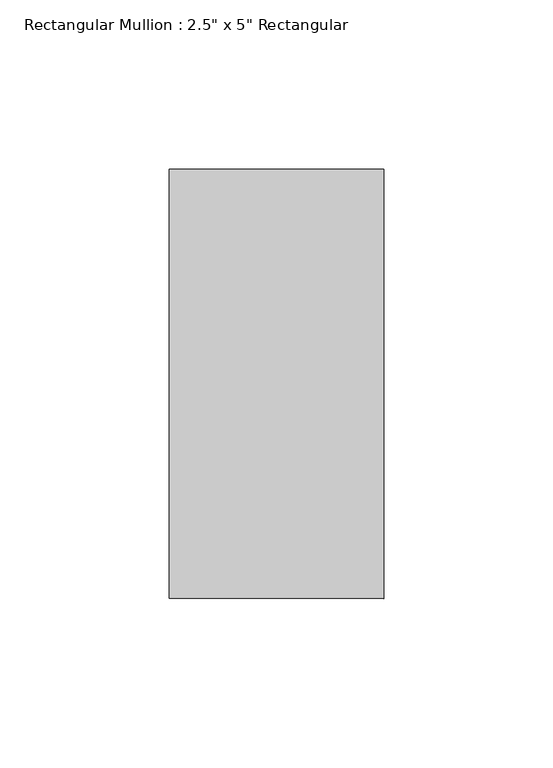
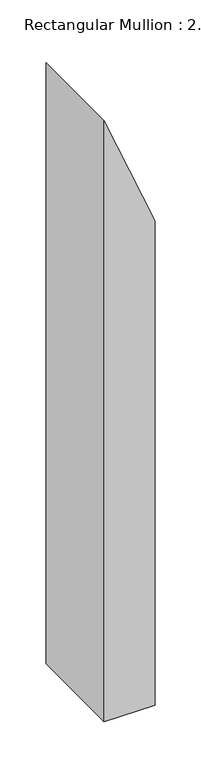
"""IFC4 building model written with IfcOpenShell, lengths in millimetres: member geometry."""

from ifc_helpers import new_model, si_unit, frame, origin, place, context, project, spatial, polyline, outline, extrude, source, transform, mapped, element, save


def member_631b13d6(model_context):
    return source(origin(), model_context, "Body", "SweptSolid", [
        extrude(outline(polyline([(-244.9581126, 31.75), (-89.9895945, -31.75), (-887.4920659, -31.75), (-887.4920659, 31.75), (-244.9581126, 31.75)])), frame((0.0, -63.5, 0.0), z_axis=(0.0, 1.0, 0.0), x_axis=(0.0, 0.0, 1.0)), (0.0, 0.0, 1.0), 127.0),
    ])


if __name__ == "__main__":
    model = new_model("IFC4")
    model_context = context("Model", 3, world=origin())
    ifc_project = project(units=[si_unit("LENGTHUNIT", "METRE", prefix="MILLI")], contexts=[model_context])
    site = spatial("IfcSite", under=ifc_project)
    building = spatial("IfcBuilding", under=site)
    placement = place(None, origin())
    member_shape = member_631b13d6(model_context)
    element("IfcMember", 1, ObjectType="Rectangular Mullion : 2.5\" x 5\" Rectangular", at=placement, inside=building, context=model_context, shape_type="MappedRepresentation", body=[
        mapped(member_shape, transform((0.0, 0.0, 0.0), x_axis=(1.0, 0.0, 0.0), y_axis=(0.0, 1.0, 0.0), z_axis=(0.0, 0.0, 1.0))),
    ])
    save(model, "model.ifc")
